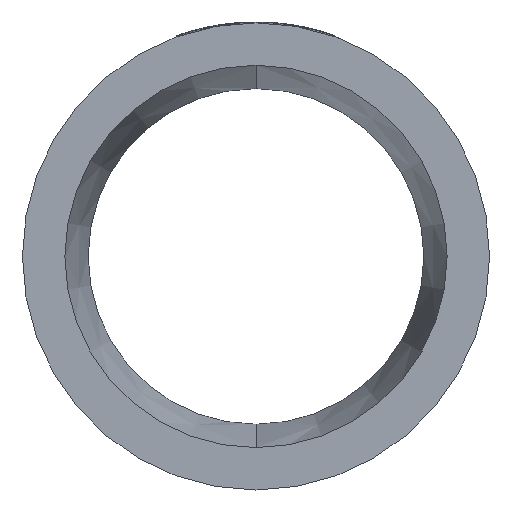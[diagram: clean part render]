
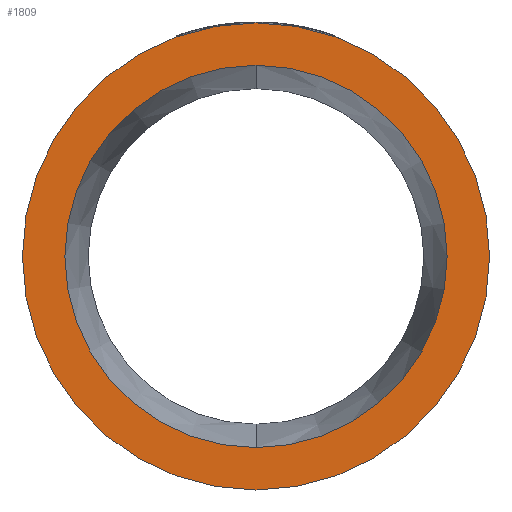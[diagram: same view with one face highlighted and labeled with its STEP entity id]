
A CAD part, left-side view. The second image highlights one B-rep face of the part: STEP entity #1809.
In plain terms, the highlighted planar face has unit normal (-1, 0, 0).
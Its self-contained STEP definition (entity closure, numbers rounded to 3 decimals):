
#12 = CARTESIAN_POINT ( 'NONE',  ( 0., 0., 125. ) ) ;
#50 = DIRECTION ( 'NONE',  ( -1., 0., 0. ) ) ;
#140 = CARTESIAN_POINT ( 'NONE',  ( 0., 0., 102.3 ) ) ;
#259 = ORIENTED_EDGE ( 'NONE', *, *, #1912, .T. ) ;
#334 = VERTEX_POINT ( 'NONE', #1188 ) ;
#461 = ORIENTED_EDGE ( 'NONE', *, *, #3629, .T. ) ;
#631 = EDGE_LOOP ( 'NONE', ( #259, #461 ) ) ;
#768 = VERTEX_POINT ( 'NONE', #140 ) ;
#775 = CIRCLE ( 'NONE', #1738, 102.3 ) ;
#1088 = FACE_OUTER_BOUND ( 'NONE', #631, .T. ) ;
#1124 = ORIENTED_EDGE ( 'NONE', *, *, #3162, .F. ) ;
#1188 = CARTESIAN_POINT ( 'NONE',  ( 0., 0., -125. ) ) ;
#1305 = AXIS2_PLACEMENT_3D ( 'NONE', #1971, #50, #1957 ) ;
#1414 = AXIS2_PLACEMENT_3D ( 'NONE', #3340, #3329, #3315 ) ;
#1427 = CIRCLE ( 'NONE', #1305, 125. ) ;
#1501 = DIRECTION ( 'NONE',  ( 0., 0., 1. ) ) ;
#1515 = DIRECTION ( 'NONE',  ( -1., 0., 0. ) ) ;
#1526 = CARTESIAN_POINT ( 'NONE',  ( 0., 0., 0. ) ) ;
#1641 = EDGE_CURVE ( 'NONE', #3362, #768, #1833, .T. ) ;
#1738 = AXIS2_PLACEMENT_3D ( 'NONE', #1888, #1879, #1864 ) ;
#1809 = ADVANCED_FACE ( 'NONE', ( #3176, #1088 ), #3266, .F. ) ;
#1833 = CIRCLE ( 'NONE', #2912, 102.3 ) ;
#1864 = DIRECTION ( 'NONE',  ( 0., 0., 1. ) ) ;
#1879 = DIRECTION ( 'NONE',  ( -1., 0., 0. ) ) ;
#1888 = CARTESIAN_POINT ( 'NONE',  ( 0., 0., 0. ) ) ;
#1912 = EDGE_CURVE ( 'NONE', #3343, #334, #1427, .T. ) ;
#1957 = DIRECTION ( 'NONE',  ( 0., 0., 1. ) ) ;
#1971 = CARTESIAN_POINT ( 'NONE',  ( 0., 0., 0. ) ) ;
#2420 = ORIENTED_EDGE ( 'NONE', *, *, #1641, .F. ) ;
#2616 = CARTESIAN_POINT ( 'NONE',  ( 0., 0., -102.3 ) ) ;
#2662 = AXIS2_PLACEMENT_3D ( 'NONE', #3096, #3086, #3082 ) ;
#2912 = AXIS2_PLACEMENT_3D ( 'NONE', #1526, #1515, #1501 ) ;
#3082 = DIRECTION ( 'NONE',  ( 0., 0., -1. ) ) ;
#3086 = DIRECTION ( 'NONE',  ( 1., 0., 0. ) ) ;
#3096 = CARTESIAN_POINT ( 'NONE',  ( 0., 102.3, 0. ) ) ;
#3162 = EDGE_CURVE ( 'NONE', #768, #3362, #775, .T. ) ;
#3176 = FACE_BOUND ( 'NONE', #3582, .T. ) ;
#3266 = PLANE ( 'NONE',  #2662 ) ;
#3315 = DIRECTION ( 'NONE',  ( 0., 0., 1. ) ) ;
#3329 = DIRECTION ( 'NONE',  ( -1., 0., 0. ) ) ;
#3340 = CARTESIAN_POINT ( 'NONE',  ( 0., 0., 0. ) ) ;
#3343 = VERTEX_POINT ( 'NONE', #12 ) ;
#3362 = VERTEX_POINT ( 'NONE', #2616 ) ;
#3564 = CIRCLE ( 'NONE', #1414, 125. ) ;
#3582 = EDGE_LOOP ( 'NONE', ( #1124, #2420 ) ) ;
#3629 = EDGE_CURVE ( 'NONE', #334, #3343, #3564, .T. ) ;
